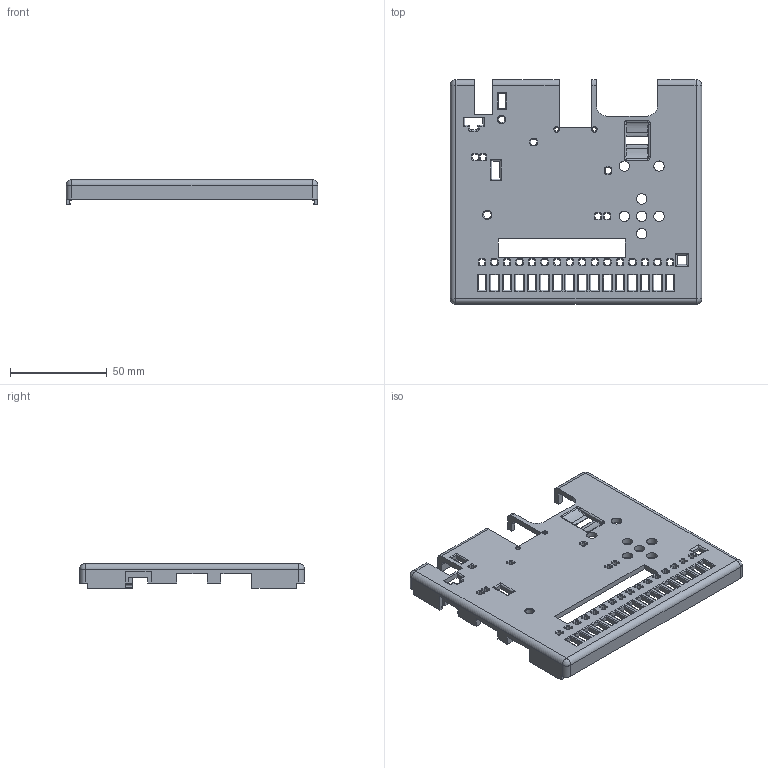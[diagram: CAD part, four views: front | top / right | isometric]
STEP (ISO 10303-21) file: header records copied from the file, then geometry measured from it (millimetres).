
FILE_DESCRIPTION(/* description */ ('STEP AP242 Edition 2','CAx-IF Rec.Pracs.---Representation and Presentation of Product Manufacturing Information (PMI)---4.0---2014-10-13','CAx-IF Rec.Pracs.---3D Tessellated Geometry---0.4---2014-09-14','2;1','CAx-IF Rec.Pracs.---User Defined Attributes---1.5---2016-08-15'),/* implementation_level */ '2;1');
FILE_NAME(/* name */ 'Untitled - Jumper Grabber',/* time_stamp */ '2026-05-27T17:41:29Z',/* author */ (''),/* organization */ (''),/* preprocessor_version */ 'ST-DEVELOPER v20',/* originating_system */ 'ONSHAPE BY PTC INC, 1.215',/* authorisation */ ' ');
FILE_SCHEMA (('AP242_MANAGED_MODEL_BASED_3D_ENGINEERING_MIM_LF { 1 0 10303 442 3 1 4 }'));
Length unit declared in the file: metre
Products named in the file (1): Jumper Grabber
Bounding box: 130.36 x 116.46 x 12.92 mm (x, y, z)
Volume: 41887.7 mm3; surface area: 34032.5 mm2
Topology: 1 solids, 1 shells, 713 faces, 1839 edges, 1122 vertices
Faces by surface type: cylinder 320, plane 272, torus 99, bspline 16, sphere 6
Full cylindrical faces by diameter (mm): 2 x2, 4 x1, 5.35 x7
Entity records: 21989 total; most frequent: CARTESIAN_POINT 4140, DIRECTION 3854, ORIENTED_EDGE 3640, EDGE_CURVE 1820, AXIS2_PLACEMENT_3D 1373, VERTEX_POINT 1122, LINE 1108, VECTOR 1108
